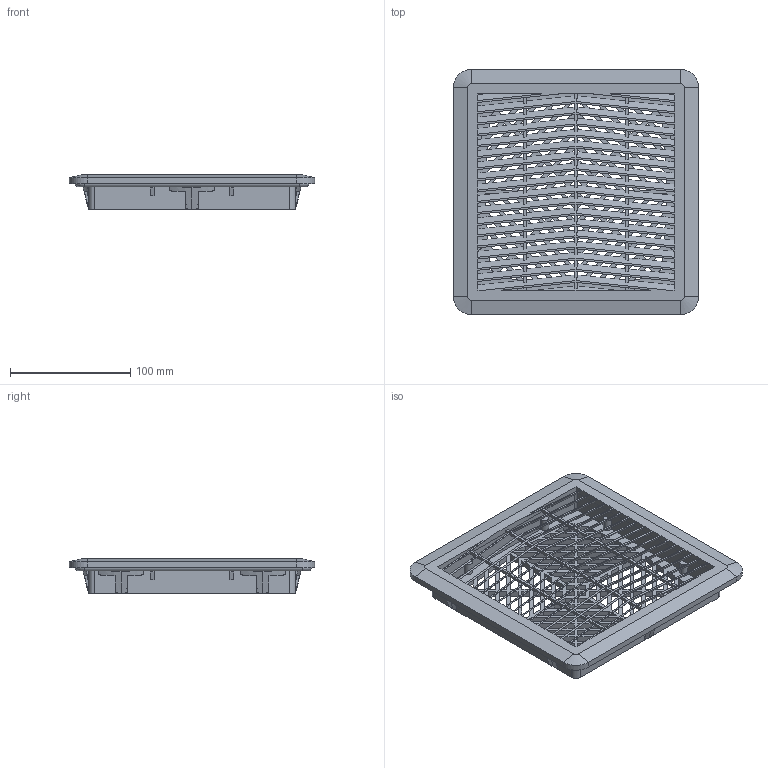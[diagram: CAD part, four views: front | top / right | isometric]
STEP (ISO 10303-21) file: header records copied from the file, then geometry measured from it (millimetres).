
FILE_DESCRIPTION (( 'STEP AP214' ), '1' );
FILE_NAME ('FF 13 Ðåøåòêà ñ ôèëüòðîì.STEP', '2018-08-23T11:03:32', ( '' ), ( '' ), 'SwSTEP 2.0', 'SolidWorks 2012', '' );
FILE_SCHEMA (( 'AUTOMOTIVE_DESIGN' ));
Length unit declared in the file: millimetre
Products named in the file (3): Çàùåëêà; Ðåøåòêà FF 13 áåç çàùåëîê; FF 13 Ðåøåòêà ñ ôèëüòðîì
Assembly tree (7 placements, depth 2):
  FF 13 Ðåøåòêà ñ ôèëüòðîì
    Ðåøåòêà FF 13 áåç çàùåëîê
    Çàùåëêà  x6
Bounding box: 204 x 204 x 29 mm (x, y, z)
Volume: 248306.9 mm3; surface area: 185606.6 mm2
Topology: 7 solids, 7 shells, 958 faces, 2843 edges, 1860 vertices
Faces by surface type: plane 865, cylinder 85, cone 4, torus 4
Entity records: 29877 total; most frequent: CARTESIAN_POINT 5266, ORIENTED_EDGE 5236, DIRECTION 4505, EDGE_CURVE 2618, LINE 2465, VECTOR 2465, VERTEX_POINT 1715, EDGE_LOOP 1143
